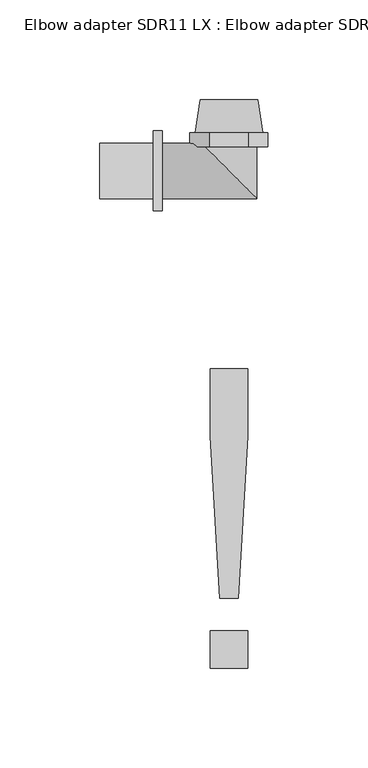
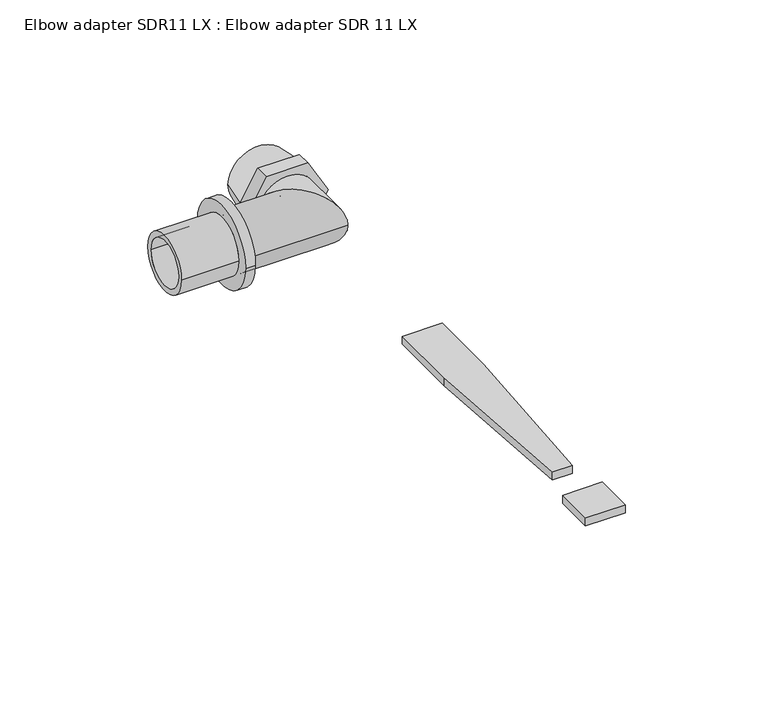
"""IFC4 building model written with IfcOpenShell, lengths in millimetres: pipe fitting geometry, Elbow adapter SDR11 LX : Elbow adapter SDR 11 LX."""

from ifc_helpers import new_model, si_unit, point, frame, origin, origin_with_axes, origin_2d, place, context, project, spatial, polyline, circle_curve, ellipse_curve, trimmed, segment, composite_curve, outline, extrude, source, transform, mapped, element, save
from ifc_brep_helpers import plane_surface, cylinder_surface, revolved_surface, advanced_brep


def elbow_adapter_sdr11_lx_elbow_adapter_sdr_11_lx_30344850(model_context):
    return source(origin(), model_context, "Body", "SolidModel", [
        extrude(outline(polyline([(-4.7088895, -214.6833285), (-9.4177791, -133.3446193), (-9.4177791, -99.3155348), (9.4177791, -99.3155348), (9.4177791, -133.3446193), (4.7088895, -214.6833285), (-4.7088895, -214.6833285)])), origin_with_axes(), (0.0, 0.0, 1.0), 4.0),
        extrude(outline(polyline([(-9.4177791, -250.0), (-9.4177791, -231.1644418), (9.4177791, -231.1644418), (9.4177791, -250.0), (-9.4177791, -250.0)])), origin_with_axes(), (0.0, 0.0, 1.0), 4.0),
        extrude(outline(polyline([(0.0, -19.6299092), (-17.0, -9.8149546), (-17.0, 9.8149546), (0.0, 19.6299092), (17.0, 9.8149546), (17.0, -9.8149546), (0.0, -19.6299092)]), holes=[composite_curve([segment(trimmed(circle_curve(origin_2d(), 12.0), [point((-12.0, 0.0))], [point((12.0, 0.0))], True, "CARTESIAN"), True, "CONTINUOUS"), segment(trimmed(circle_curve(origin_2d(), 12.0), [point((12.0, 0.0))], [point((-12.0, 0.0))], True, "CARTESIAN"), True, "CONTINUOUS")], self_intersect=False)]), frame((0.0, 12.0, 0.0), z_axis=(0.0, 1.0, 0.0), x_axis=(0.0, 0.0, 1.0)), (0.0, 0.0, 1.0), 7.0),
        advanced_brep(
        [(14.4, 35.8, 0.0), (-14.4, 35.8, 0.0), (0.0, 35.8, 12.0), (0.0, 35.8, -12.0), (17.0, 19.0, 0.0), (-17.0, 19.0, 0.0), (0.0, 19.0, -12.0), (0.0, 19.0, 12.0)],
        [
            (0, 1, circle_curve(frame((0.0, 35.8, 0.0), z_axis=(0.0, 1.0, 0.0), x_axis=(1.0, 0.0, 0.0)), 14.4)),
            (1, 0, circle_curve(frame((0.0, 35.8, 0.0), z_axis=(0.0, 1.0, 0.0), x_axis=(-1.0, 0.0, 0.0)), 14.4)),
            (2, 3, circle_curve(frame((0.0, 35.8, 0.0), z_axis=(0.0, -1.0, 0.0), x_axis=(0.0, 0.0, 1.0)), 12.0)),
            (3, 2, circle_curve(frame((0.0, 35.8, 0.0), z_axis=(0.0, -1.0, 0.0), x_axis=(0.0, 0.0, 1.0)), 12.0)),
            (4, 5, circle_curve(frame((0.0, 19.0, 0.0), z_axis=(0.0, -1.0, 0.0), x_axis=(-1.0, 0.0, 0.0)), 17.0)),
            (5, 4, circle_curve(frame((0.0, 19.0, 0.0), z_axis=(0.0, -1.0, 0.0), x_axis=(1.0, 0.0, 0.0)), 17.0)),
            (6, 7, circle_curve(frame((0.0, 19.0, 0.0), z_axis=(0.0, 1.0, 0.0), x_axis=(0.0, 0.0, 1.0)), 12.0)),
            (7, 6, circle_curve(frame((0.0, 19.0, 0.0), z_axis=(0.0, 1.0, 0.0), x_axis=(0.0, 0.0, 1.0)), 12.0)),
            (0, 4),
            (5, 1),
            (6, 3),
            (2, 7),
        ],
        [
            plane_surface(frame((0.0, 35.8, 0.0), z_axis=(0.0, 1.0, 0.0), x_axis=(0.0, 0.0, -1.0))),
            plane_surface(frame((0.0, 19.0, 0.0), z_axis=(0.0, -1.0, 0.0), x_axis=(0.0, 0.0, -1.0))),
            revolved_surface(polyline([(14.399999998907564, 35.8, 0.0), (17.0, 19.0, 0.0)]), (0.0, 128.8461538, 0.0), (0.0, -1.0, 0.0)),
            revolved_surface(polyline([(-14.399999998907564, 35.8, 0.0), (-17.0, 19.0, 0.0)]), (0.0, 128.8461538, 0.0), (0.0, -1.0, 0.0)),
            revolved_surface(polyline([(0.0, 35.8, 12.0), (0.0, 19.0, 12.0)]), (0.0, 12.0, 0.0), (0.0, 1.0, 0.0)),
        ],
        [
            (0, [[1, 2], [3, 4]]),
            (1, [[5, 6], [7, 8]]),
            (2, [[-1, 9, -6, 10]]),
            (3, [[-2, -10, -5, -9]]),
            (4, [[11, -3, 12, -7]]),
            (4, [[-11, -8, -12, -4]]),
        ],
    ),
        advanced_brep(
        [(-33.5, -13.95, 0.0), (-33.5, 13.95, 0.0), (-33.5, -11.2, 0.0), (-33.5, 11.2, 0.0), (13.95, -13.95, 0.0), (-13.95, 13.95, 0.0), (11.2, -11.2, 0.0), (-11.2, 11.2, 0.0), (13.95, 19.0, 0.0), (-13.95, 19.0, 0.0), (11.2, 19.0, 0.0), (-11.2, 19.0, 0.0)],
        [
            (0, 1, circle_curve(frame((-33.5, 0.0, 0.0), z_axis=(-1.0, 0.0, 0.0), x_axis=(0.0, 1.0, 0.0)), 13.95)),
            (1, 0, circle_curve(frame((-33.5, 0.0, 0.0), z_axis=(-1.0, 0.0, 0.0), x_axis=(0.0, 1.0, 0.0)), 13.95)),
            (2, 3, circle_curve(frame((-33.5, 0.0, 0.0), z_axis=(1.0, 0.0, 0.0), x_axis=(0.0, 1.0, 0.0)), 11.2)),
            (3, 2, circle_curve(frame((-33.5, 0.0, 0.0), z_axis=(1.0, 0.0, 0.0), x_axis=(0.0, 1.0, 0.0)), 11.2)),
            (0, 4),
            (4, 5, ellipse_curve(frame((0.0, 0.0, 0.0), z_axis=(-0.7071067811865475, -0.7071067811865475, 0.0), x_axis=(-0.7071067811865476, 0.7071067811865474, 0.0)), 19.7282792, 13.95)),
            (5, 1),
            (5, 4, ellipse_curve(frame((0.0, 0.0, 0.0), z_axis=(-0.7071067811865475, -0.7071067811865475, 0.0), x_axis=(-0.7071067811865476, 0.7071067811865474, 0.0)), 19.7282792, 13.95)),
            (2, 6),
            (6, 7, ellipse_curve(frame((0.0, 0.0, 0.0), z_axis=(0.7071067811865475, 0.7071067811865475, 0.0), x_axis=(0.7071067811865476, -0.7071067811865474, 0.0)), 15.8391919, 11.2)),
            (7, 3),
            (7, 6, ellipse_curve(frame((0.0, 0.0, 0.0), z_axis=(0.7071067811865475, 0.7071067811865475, 0.0), x_axis=(0.7071067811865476, -0.7071067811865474, 0.0)), 15.8391919, 11.2)),
            (8, 9, circle_curve(frame((0.0, 19.0, 0.0), z_axis=(0.0, 1.0, 0.0), x_axis=(-1.0, 0.0, 0.0)), 13.95)),
            (9, 8, circle_curve(frame((0.0, 19.0, 0.0), z_axis=(0.0, 1.0, 0.0), x_axis=(-1.0, 0.0, 0.0)), 13.95)),
            (10, 11, circle_curve(frame((0.0, 19.0, 0.0), z_axis=(0.0, -1.0, 0.0), x_axis=(-1.0, 0.0, 0.0)), 11.2)),
            (11, 10, circle_curve(frame((0.0, 19.0, 0.0), z_axis=(0.0, -1.0, 0.0), x_axis=(-1.0, 0.0, 0.0)), 11.2)),
            (4, 8),
            (9, 5),
            (6, 10),
            (11, 7),
        ],
        [
            plane_surface(frame((-33.5, 0.0, 0.0), z_axis=(-1.0, 0.0, 0.0), x_axis=(0.0, 0.0, 1.0))),
            cylinder_surface(frame((-33.5, 0.0, 0.0), z_axis=(-1.0, 0.0, 0.0), x_axis=(0.0, 1.0, 0.0)), 13.95),
            revolved_surface(polyline([(11.200000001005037, 11.2, 0.0), (-33.5, 11.2, 0.0)]), (-33.5, 0.0, 0.0), (1.0, 0.0, 0.0)),
            plane_surface(frame((0.0, 19.0, 0.0), z_axis=(0.0, 1.0, 0.0), x_axis=(0.0, 0.0, 1.0))),
            cylinder_surface(frame((0.0, 0.0, 0.0), z_axis=(0.0, -1.0, 0.0), x_axis=(-1.0, 0.0, 0.0)), 13.95),
            revolved_surface(polyline([(-11.2, 19.0, 0.0), (-11.2, -11.200000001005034, 0.0)]), (0.0, 0.0, 0.0), (0.0, 1.0, 0.0)),
        ],
        [
            (0, [[1, 2], [3, 4]]),
            (1, [[-1, 5, 6, 7]]),
            (1, [[-2, -7, 8, -5]]),
            (2, [[-3, 9, 10, 11]]),
            (2, [[-4, -11, 12, -9]]),
            (3, [[13, 14], [15, 16]]),
            (4, [[-6, 17, -14, 18]]),
            (4, [[-8, -18, -13, -17]]),
            (5, [[-10, 19, -16, 20]]),
            (5, [[-12, -20, -15, -19]]),
        ],
    ),
        advanced_brep(
        [(-33.5, 20.0, 0.0), (-33.5, -20.0, 0.0), (-38.0, -20.0, 0.0), (-38.0, 20.0, 0.0), (-38.0, 13.95, 0.0), (-38.0, -13.95, 0.0), (-65.0, -13.95, 0.0), (-65.0, 13.95, 0.0), (-65.0, 11.2, 0.0), (-65.0, -11.2, 0.0), (-33.5, -11.2, 0.0), (-33.5, 11.2, 0.0)],
        [
            (0, 1, circle_curve(frame((-33.5, 0.0, 0.0), z_axis=(-1.0, 0.0, 0.0), x_axis=(0.0, -1.0, 0.0)), 20.0)),
            (1, 2),
            (2, 3, circle_curve(frame((-38.0, 0.0, 0.0), z_axis=(1.0, 0.0, 0.0), x_axis=(0.0, -1.0, 0.0)), 20.0)),
            (3, 0),
            (4, 5, circle_curve(frame((-38.0, 0.0, 0.0), z_axis=(-1.0, 0.0, 0.0), x_axis=(0.0, -1.0, 0.0)), 13.95)),
            (5, 6),
            (6, 7, circle_curve(frame((-65.0, 0.0, 0.0), z_axis=(1.0, 0.0, 0.0), x_axis=(0.0, -1.0, 0.0)), 13.95)),
            (7, 4),
            (8, 9, circle_curve(frame((-65.0, 0.0, 0.0), z_axis=(-1.0, 0.0, 0.0), x_axis=(0.0, -1.0, 0.0)), 11.2)),
            (9, 10),
            (10, 11, circle_curve(frame((-33.5, 0.0, 0.0), z_axis=(1.0, 0.0, 0.0), x_axis=(0.0, -1.0, 0.0)), 11.2)),
            (11, 8),
            (0, 1, circle_curve(frame((-33.5, 0.0, 0.0), z_axis=(1.0, 0.0, 0.0), x_axis=(0.0, 1.0, 0.0)), 20.0)),
            (10, 11, circle_curve(frame((-33.5, 0.0, 0.0), z_axis=(-1.0, 0.0, 0.0), x_axis=(0.0, 1.0, 0.0)), 11.2)),
            (3, 2, circle_curve(frame((-38.0, 0.0, 0.0), z_axis=(1.0, 0.0, 0.0), x_axis=(0.0, 1.0, 0.0)), 20.0)),
            (4, 5, circle_curve(frame((-38.0, 0.0, 0.0), z_axis=(1.0, 0.0, 0.0), x_axis=(0.0, 1.0, 0.0)), 13.95)),
            (7, 6, circle_curve(frame((-65.0, 0.0, 0.0), z_axis=(1.0, 0.0, 0.0), x_axis=(0.0, 1.0, 0.0)), 13.95)),
            (8, 9, circle_curve(frame((-65.0, 0.0, 0.0), z_axis=(1.0, 0.0, 0.0), x_axis=(0.0, 1.0, 0.0)), 11.2)),
        ],
        [
            cylinder_surface(frame((0.0, 0.0, 0.0), z_axis=(1.0, 0.0, 0.0), x_axis=(0.0, -1.0, 0.0)), 20.0),
            cylinder_surface(frame((0.0, 0.0, 0.0), z_axis=(1.0, 0.0, 0.0), x_axis=(0.0, -1.0, 0.0)), 13.95),
            revolved_surface(polyline([(-33.5, -11.2, 0.0), (-65.0, -11.2, 0.0)]), (0.0, 0.0, 0.0), (1.0, 0.0, 0.0)),
            plane_surface(frame((-33.5, 0.0, 0.0), z_axis=(1.0, 0.0, 0.0), x_axis=(0.0, 1.0, 0.0))),
            cylinder_surface(frame((0.0, 0.0, 0.0), z_axis=(1.0, 0.0, 0.0), x_axis=(0.0, 1.0, 0.0)), 20.0),
            plane_surface(frame((-38.0, 0.0, 0.0), z_axis=(-1.0, 0.0, 0.0), x_axis=(0.0, 1.0, 0.0))),
            cylinder_surface(frame((0.0, 0.0, 0.0), z_axis=(1.0, 0.0, 0.0), x_axis=(0.0, 1.0, 0.0)), 13.95),
            plane_surface(frame((-65.0, 0.0, 0.0), z_axis=(-1.0, 0.0, 0.0), x_axis=(0.0, 1.0, 0.0))),
            revolved_surface(polyline([(-33.5, 11.2, 0.0), (-65.0, 11.2, 0.0)]), (0.0, 0.0, 0.0), (1.0, 0.0, 0.0)),
        ],
        [
            (0, [[1, 2, 3, 4]]),
            (1, [[5, 6, 7, 8]]),
            (2, [[9, 10, 11, 12]]),
            (3, [[13, -1], [14, -11]]),
            (4, [[-13, -4, 15, -2]]),
            (5, [[-15, -3], [16, -5]]),
            (6, [[-16, -8, 17, -6]]),
            (7, [[-17, -7], [18, -9]]),
            (8, [[-18, -12, -14, -10]]),
        ],
    ),
    ])


if __name__ == "__main__":
    model = new_model("IFC4")
    model_context = context("Model", 3, world=origin())
    ifc_project = project(units=[si_unit("LENGTHUNIT", "METRE", prefix="MILLI")], contexts=[model_context])
    site = spatial("IfcSite", under=ifc_project)
    building = spatial("IfcBuilding", under=site)
    placement = place(None, origin())
    elbow_adapter_sdr11_lx_elbow_adapter_sdr_11_lx_shape = elbow_adapter_sdr11_lx_elbow_adapter_sdr_11_lx_30344850(model_context)
    element("IfcPipeFitting", 1, ObjectType="Elbow adapter SDR11 LX : Elbow adapter SDR 11 LX", at=placement, inside=building, context=model_context, shape_type="MappedRepresentation", body=[
        mapped(elbow_adapter_sdr11_lx_elbow_adapter_sdr_11_lx_shape, transform((0.0, 0.0, 0.0), x_axis=(1.0, 0.0, 0.0), y_axis=(0.0, 1.0, 0.0), z_axis=(0.0, 0.0, 1.0))),
    ])
    save(model, "model.ifc")
